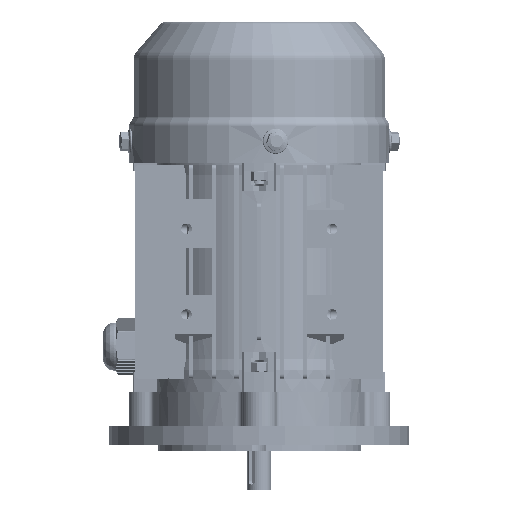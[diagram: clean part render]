
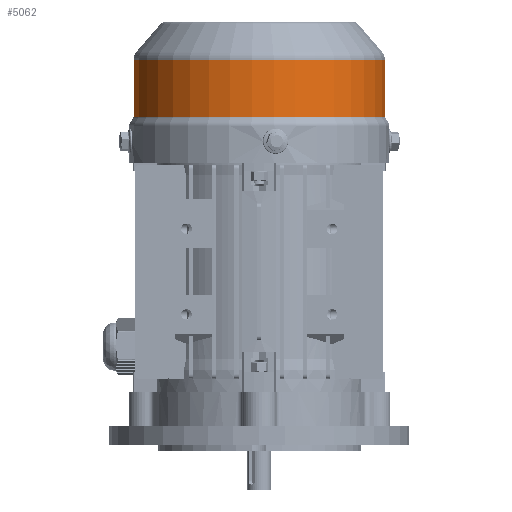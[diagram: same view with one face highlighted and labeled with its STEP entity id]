
A CAD part, front view. The second image highlights one B-rep face of the part: STEP entity #5062.
In plain terms, the highlighted cylindrical face has radius 58.8 mm (diameter 117.6 mm), a partial arc.
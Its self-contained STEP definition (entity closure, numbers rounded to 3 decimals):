
#1232 = ORIENTED_EDGE ( 'NONE', *, *, #130601, .F. ) ;
#1969 = DIRECTION ( 'NONE',  ( 0., -1., 0. ) ) ;
#4511 = CARTESIAN_POINT ( 'NONE',  ( 58.8, 60.025, 0. ) ) ;
#5062 = ADVANCED_FACE ( 'NONE', ( #103324 ), #48670, .T. ) ;
#5508 = VERTEX_POINT ( 'NONE', #78152 ) ;
#7002 = DIRECTION ( 'NONE',  ( 0., -1., 0. ) ) ;
#7715 = VECTOR ( 'NONE', #49269, 1000. ) ;
#17894 = DIRECTION ( 'NONE',  ( 0., -1., 0. ) ) ;
#18594 = CIRCLE ( 'NONE', #101857, 58.8 ) ;
#18876 = CIRCLE ( 'NONE', #29027, 58.8 ) ;
#22668 = CARTESIAN_POINT ( 'NONE',  ( -58.8, 17.63, 0. ) ) ;
#23689 = AXIS2_PLACEMENT_3D ( 'NONE', #123236, #51317, #122789 ) ;
#29027 = AXIS2_PLACEMENT_3D ( 'NONE', #68593, #7002, #78960 ) ;
#38934 = CARTESIAN_POINT ( 'NONE',  ( 58.8, 17.63, 0. ) ) ;
#44814 = LINE ( 'NONE', #38934, #7715 ) ;
#44868 = VERTEX_POINT ( 'NONE', #61468 ) ;
#48670 = CYLINDRICAL_SURFACE ( 'NONE', #23689, 58.8 ) ;
#49269 = DIRECTION ( 'NONE',  ( 0., -1., 0. ) ) ;
#51317 = DIRECTION ( 'NONE',  ( 0., -1., 0. ) ) ;
#55435 = EDGE_LOOP ( 'NONE', ( #1232, #64687, #86615, #124902 ) ) ;
#61468 = CARTESIAN_POINT ( 'NONE',  ( -58.8, 33.496, 0. ) ) ;
#63907 = VECTOR ( 'NONE', #1969, 1000. ) ;
#64687 = ORIENTED_EDGE ( 'NONE', *, *, #125764, .T. ) ;
#68593 = CARTESIAN_POINT ( 'NONE',  ( 0., 33.496, 0. ) ) ;
#78152 = CARTESIAN_POINT ( 'NONE',  ( -58.8, 60.025, 0. ) ) ;
#78960 = DIRECTION ( 'NONE',  ( 1., 0., 0. ) ) ;
#79466 = CARTESIAN_POINT ( 'NONE',  ( 0., 60.025, 0. ) ) ;
#86615 = ORIENTED_EDGE ( 'NONE', *, *, #122625, .T. ) ;
#89798 = DIRECTION ( 'NONE',  ( 1., 0., 0. ) ) ;
#91317 = LINE ( 'NONE', #22668, #63907 ) ;
#101857 = AXIS2_PLACEMENT_3D ( 'NONE', #79466, #17894, #89798 ) ;
#103324 = FACE_OUTER_BOUND ( 'NONE', #55435, .T. ) ;
#104526 = EDGE_CURVE ( 'NONE', #44868, #123230, #18876, .T. ) ;
#122625 = EDGE_CURVE ( 'NONE', #126772, #123230, #44814, .T. ) ;
#122789 = DIRECTION ( 'NONE',  ( 1., 0., 0. ) ) ;
#123230 = VERTEX_POINT ( 'NONE', #125508 ) ;
#123236 = CARTESIAN_POINT ( 'NONE',  ( 0., 17.63, 0. ) ) ;
#124902 = ORIENTED_EDGE ( 'NONE', *, *, #104526, .F. ) ;
#125508 = CARTESIAN_POINT ( 'NONE',  ( 58.8, 33.496, 0. ) ) ;
#125764 = EDGE_CURVE ( 'NONE', #5508, #126772, #18594, .T. ) ;
#126772 = VERTEX_POINT ( 'NONE', #4511 ) ;
#130601 = EDGE_CURVE ( 'NONE', #5508, #44868, #91317, .T. ) ;
